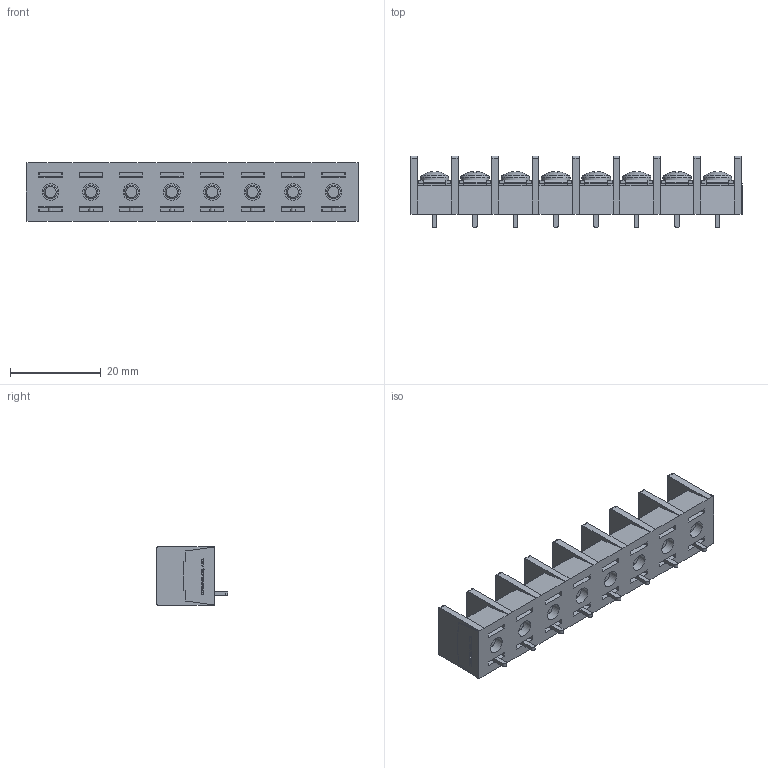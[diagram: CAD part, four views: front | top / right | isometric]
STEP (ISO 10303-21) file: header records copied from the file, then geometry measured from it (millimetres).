
FILE_DESCRIPTION(/* description */ ('Alibre Inc.'),/* implementation_level */ '2;1');
FILE_NAME(/* name */ 'export0',/* time_stamp */ '2015-10-20T19:43:19+09:00',/* author */ (''),/* organization */ (''),/* preprocessor_version */ 'ST-DEVELOPER v14',/* originating_system */ 'Alibre',/* authorisation */ '');
FILE_SCHEMA (('CONFIG_CONTROL_DESIGN'));
Length unit declared in the file: centimetre
Products named in the file (1): ID_1
Bounding box: 73.03 x 15.8 x 12.8 mm (x, y, z)
Volume: 6787 mm3; surface area: 8440.8 mm2
Topology: 1 solids, 137 shells, 2638 faces, 6776 edges, 4484 vertices
Faces by surface type: plane 1972, bspline 520, cylinder 82, cone 40, torus 16, sphere 8
Full cylindrical faces by diameter (mm): 3 x16, 3.7 x8, 4.6 x8, 6.3 x8
Entity records: 76193 total; most frequent: CARTESIAN_POINT 18465, ORIENTED_EDGE 13376, DIRECTION 7948, EDGE_CURVE 6688, VECTOR 5154, LINE 5154, VERTEX_POINT 4460, EDGE_LOOP 2886
